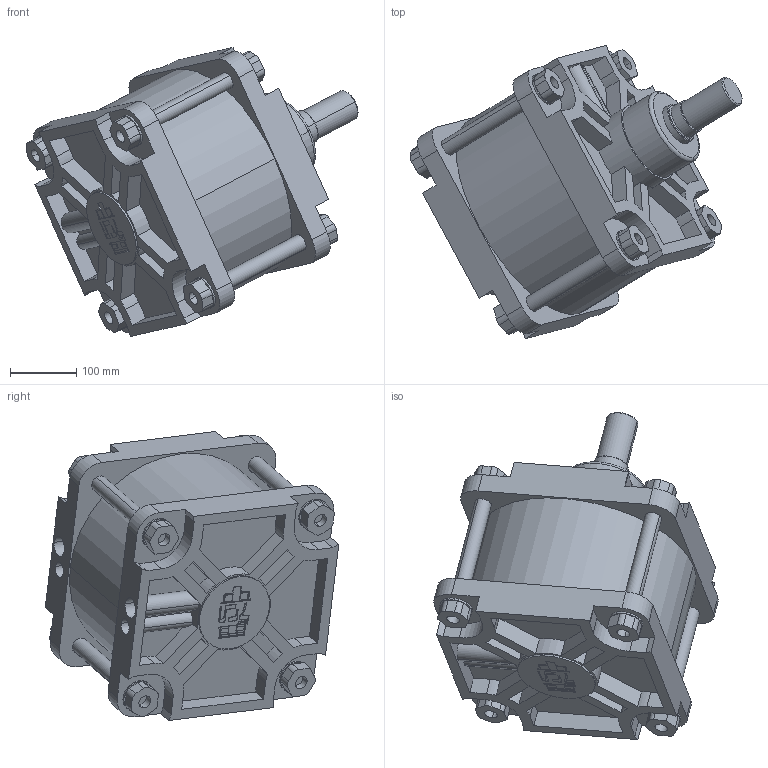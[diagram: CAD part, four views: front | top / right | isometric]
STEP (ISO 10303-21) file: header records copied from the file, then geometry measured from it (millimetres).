
FILE_DESCRIPTION(('CATIA V5 STEP Exchange'),'2;1');
FILE_NAME('D:\stp file for catalog\PNC\320\PNC 320-63-25-00.stp','2015-10-27T13:58:22+00:00',('none'),('none'),'Version 5-6 Release 2012','CATIA V5 STEP AP203','none');
FILE_SCHEMA(('CONFIG_CONTROL_DESIGN'));
Length unit declared in the file: millimetre
Products named in the file (1): PNC 320-63-25-00
Assembly tree (2 placements, depth 2):
  PNC 320-63-25-00
    #58
    #14831
Bounding box: 501.2 x 443.06 x 436.43 mm (x, y, z)
Volume: 15099720.9 mm3; surface area: 1334268.1 mm2
Topology: 2 solids, 4 shells, 522 faces, 1393 edges, 921 vertices
Faces by surface type: plane 305, cylinder 169, cone 42, torus 6
Entity records: 15447 total; most frequent: CARTESIAN_POINT 3485, ORIENTED_EDGE 2786, DIRECTION 1853, EDGE_CURVE 1393, VERTEX_POINT 921, VECTOR 878, LINE 878, AXIS2_PLACEMENT_3D 682
